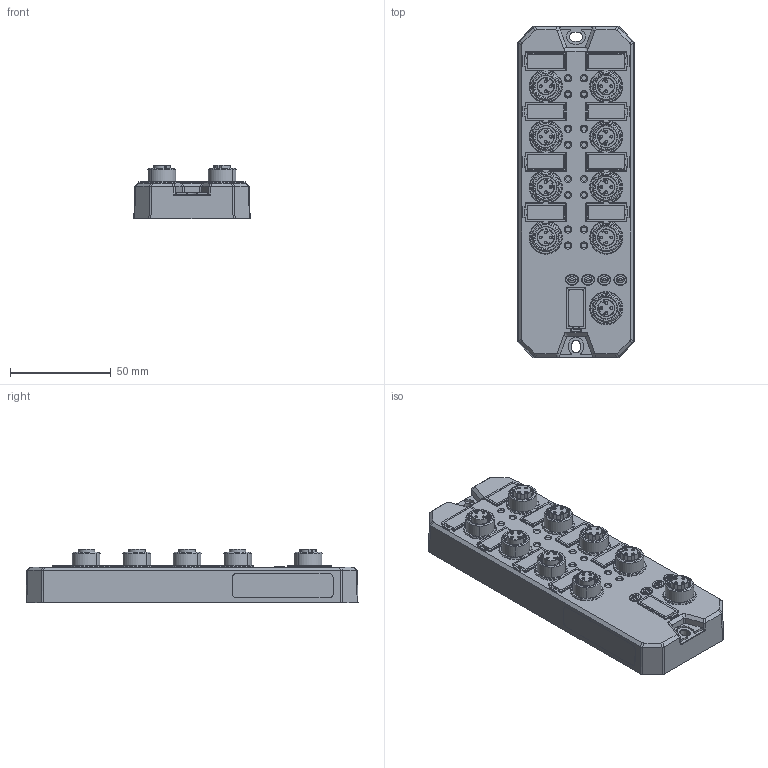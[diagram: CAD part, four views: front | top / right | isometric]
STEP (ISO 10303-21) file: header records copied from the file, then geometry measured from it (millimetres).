
FILE_DESCRIPTION((''),'2;1');
FILE_NAME('PRO_IO_LINK_C_2_SW0001','2026-07-08T11:01:45',('Administrator'),(''),'CREO PARAMETRIC BY PTC INC, 2022073','CREO PARAMETRIC BY PTC INC, 2022073','');
FILE_SCHEMA(('CONFIG_CONTROL_DESIGN'));
Products named in the file (1): PRO_IO_LINK_C_2_SW0001
Bounding box: 57.7 x 164.7 x 26.7 mm (x, y, z)
Volume: 169606.8 mm3; surface area: 43408.1 mm2
Topology: 1 solids, 1 shells, 2670 faces, 6739 edges, 4092 vertices
Faces by surface type: cylinder 1146, plane 834, cone 228, bspline 182, sphere 172, torus 79, extrusion 29
Entity records: 112635 total; most frequent: CARTESIAN_POINT 51043, ORIENTED_EDGE 13478, DIRECTION 11787, EDGE_CURVE 6739, AXIS2_PLACEMENT_3D 4093, VERTEX_POINT 4092, VECTOR 3601, LINE 3572
